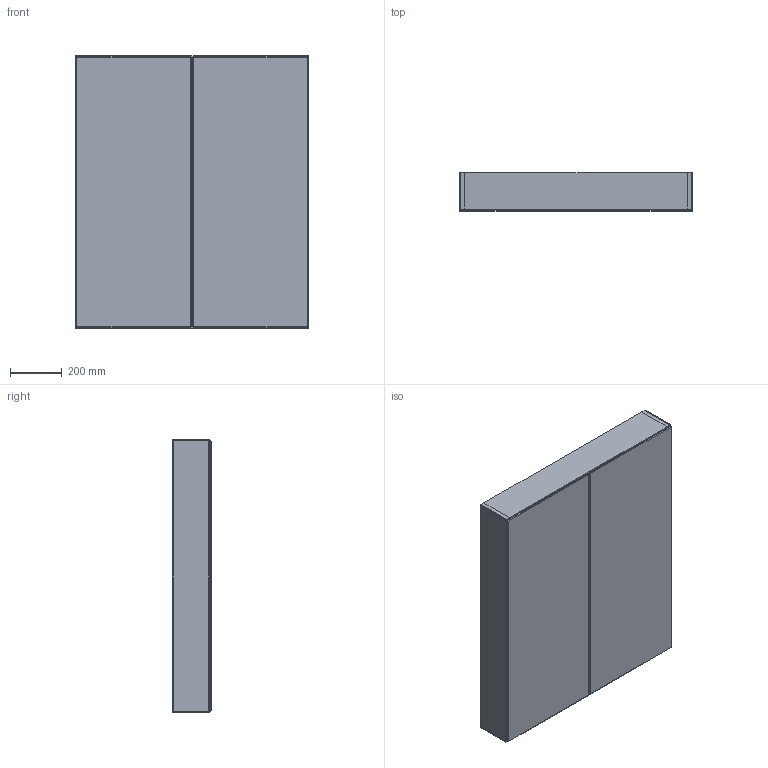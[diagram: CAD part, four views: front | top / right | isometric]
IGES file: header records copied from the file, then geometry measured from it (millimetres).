
Start section: Data from Parasolid IGES Translator 19.0.9, Copyright(c) 2006 Siemens PL M Software. All Rights Reserved.
Global section: file name: noorth-mirror-H 105 D 14,7 W 90_9073.igs; native system: By Siemens PLM Incorporated; preprocessor: XPlus GENERIC/IGES 19.0.9; author: Noname; organization: Noname; date: 20200519.100035; units: metre
Bounding box: 899.82 x 147 x 1050 mm (x, y, z)
Volume: 20186966.7 mm3; surface area: 6204516 mm2
Topology: 13 solids, 13 shells, 222 faces, 420 edges, 224 vertices
Faces by surface type: plane 222
